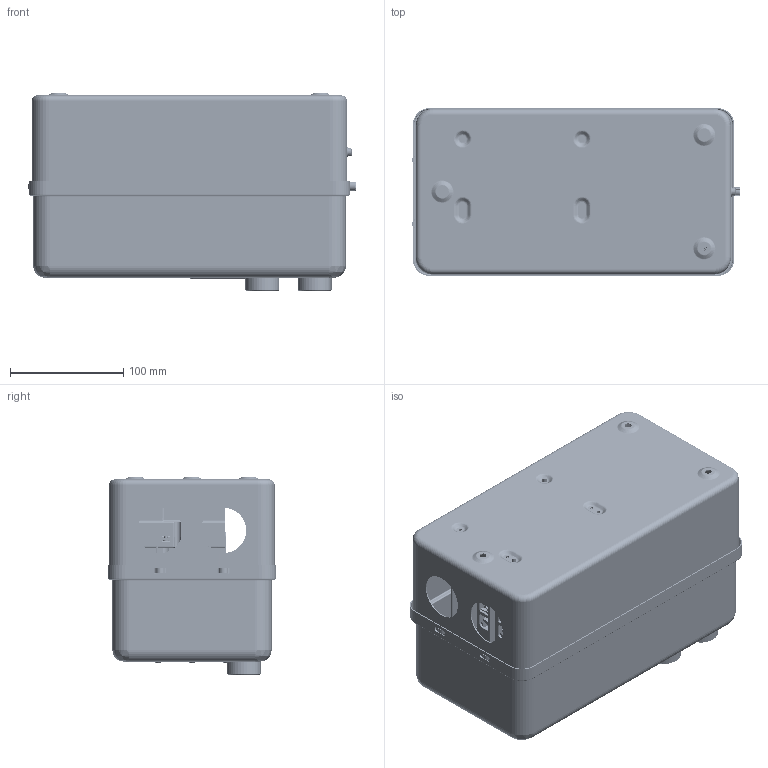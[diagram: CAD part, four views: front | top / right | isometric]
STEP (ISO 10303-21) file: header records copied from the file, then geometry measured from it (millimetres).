
FILE_DESCRIPTION((''),'2;1');
FILE_NAME('CDS2S-63B_ASM','2021-05-24T',('yunfei.yang'),(''),'PRO/ENGINEER BY PARAMETRIC TECHNOLOGY CORPORATION, 2015440','PRO/ENGINEER BY PARAMETRIC TECHNOLOGY CORPORATION, 2015440','');
FILE_SCHEMA(('CONFIG_CONTROL_DESIGN'));
Products named in the file (58): 8004002300; BREP_WITH_VOIDS_246293; MANIFOLD_SOLID_BREP_251797; MANIFOLD_SOLID_BREP_251947; MANIFOLD_SOLID_BREP_252097; MANIFOLD_SOLID_BREP_252247; MANIFOLD_SOLID_BREP_252397; MANIFOLD_SOLID_BREP_252547; MANIFOLD_SOLID_BREP_252697; MANIFOLD_SOLID_BREP_252847; MANIFOLD_SOLID_BREP_252997; MANIFOLD_SOLID_BREP_253147; MANIFOLD_SOLID_BREP_253297; MANIFOLD_SOLID_BREP_253447; MANIFOLD_SOLID_BREP_253597; MANIFOLD_SOLID_BREP_253747; MANIFOLD_SOLID_BREP_253897; MANIFOLD_SOLID_BREP_254047; MANIFOLD_SOLID_BREP_254197; MANIFOLD_SOLID_BREP_254347; MANIFOLD_SOLID_BREP_254497; MANIFOLD_SOLID_BREP_254647; MANIFOLD_SOLID_BREP_254797; MANIFOLD_SOLID_BREP_254947; MANIFOLD_SOLID_BREP_255097; MANIFOLD_SOLID_BREP_255247; MANIFOLD_SOLID_BREP_255397; 2400021900_SW0001_1_ASM; CDC6I-80_ASM; PRT0036; PRT0037; PRT0038; PRT0039; PRT0040; PRT0041; PRT0042; PRT0043; PRT0044; PRT0045; PRT0046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
Assembly tree (59 placements, depth 4):
  CDS2S-63B_ASM
    8004002300
    CDC6I-80_ASM
      2400021900_SW0001_1_ASM
        BREP_WITH_VOIDS_246293
        MANIFOLD_SOLID_BREP_251797
        MANIFOLD_SOLID_BREP_251947
        MANIFOLD_SOLID_BREP_252097
        MANIFOLD_SOLID_BREP_252247
        MANIFOLD_SOLID_BREP_252397
        MANIFOLD_SOLID_BREP_252547
        MANIFOLD_SOLID_BREP_252697
        MANIFOLD_SOLID_BREP_252847
        MANIFOLD_SOLID_BREP_252997
        MANIFOLD_SOLID_BREP_253147
        MANIFOLD_SOLID_BREP_253297
        MANIFOLD_SOLID_BREP_253447
        MANIFOLD_SOLID_BREP_253597
        MANIFOLD_SOLID_BREP_253747
        MANIFOLD_SOLID_BREP_253897
        MANIFOLD_SOLID_BREP_254047
        MANIFOLD_SOLID_BREP_254197
        MANIFOLD_SOLID_BREP_254347
        MANIFOLD_SOLID_BREP_254497
        MANIFOLD_SOLID_BREP_254647
        MANIFOLD_SOLID_BREP_254797
        MANIFOLD_SOLID_BREP_254947
        MANIFOLD_SOLID_BREP_255097
        MANIFOLD_SOLID_BREP_255247
        MANIFOLD_SOLID_BREP_255397
    ASM0011_ASM
      ASM0012_ASM
        PRT0036
        PRT0037
        PRT0038
        PRT0039
        PRT0040
        PRT0041
        PRT0042
        PRT0043
        PRT0044
        PRT0045
        PRT0046
        PRT0047
        PRT0048
    7010100511K_GB_T9074_4_M4X16  x2
    8004002200
    7030100424_GB_T9074_8_M4X12
    PRT02
    ASM0009_ASM  x2
      ASM0010_ASM
        PRT0029
        PRT0030
        PRT0031
        PRT0032
        PRT0033
        PRT0034
        PRT0035
Bounding box: 289.19 x 148.3 x 174.4 mm (x, y, z)
Volume: 1217869.1 mm3; surface area: 768548.2 mm2
Topology: 59 solids, 75 shells, 13725 faces, 37655 edges, 24113 vertices
Faces by surface type: plane 8299, cylinder 3008, extrusion 689, bspline 643, cone 514, torus 418, sphere 154
Entity records: 425740 total; most frequent: CARTESIAN_POINT 106503, ORIENTED_EDGE 68924, DIRECTION 62165, EDGE_CURVE 34486, VECTOR 24481, LINE 23792, VERTEX_POINT 22173, AXIS2_PLACEMENT_3D 18842
